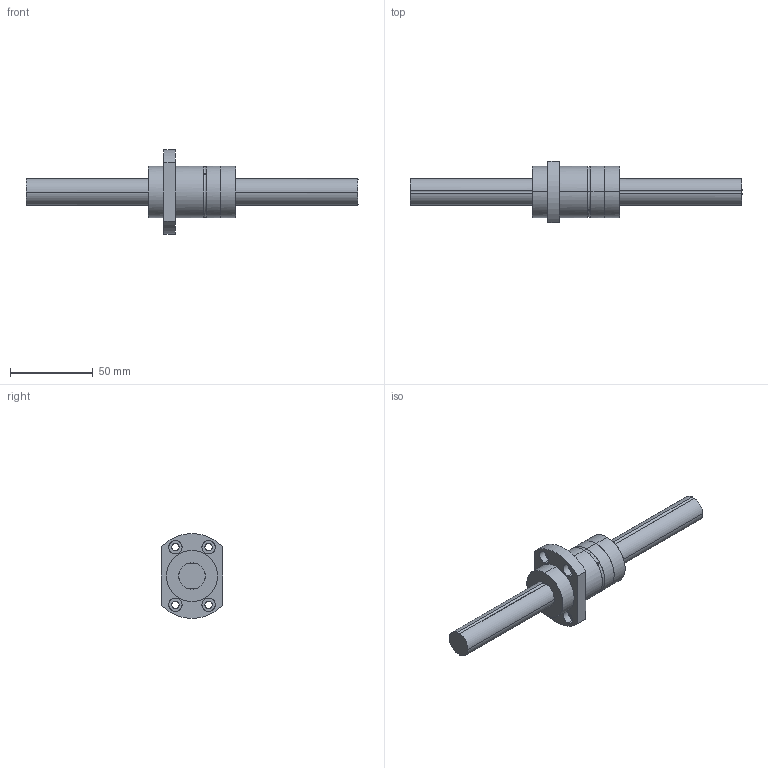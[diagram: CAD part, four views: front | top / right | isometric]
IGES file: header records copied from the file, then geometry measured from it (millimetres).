
Global section: file name: No Iges File Name specified; native system: AutoDesk Inventor R11.0; preprocessor: AutoDesk Inventor Iges Exporter R11.0; author: No Author specified; organization: No Organization specified; date: 20150223.133623; units: millimetre
Bounding box: 200 x 37 x 51 mm (x, y, z)
Surface area: 22341.6 mm2 (no closed solid volume)
Topology: 0 solids, 0 shells, 57 faces, 396 edges, 396 vertices
Faces by surface type: bspline 57
